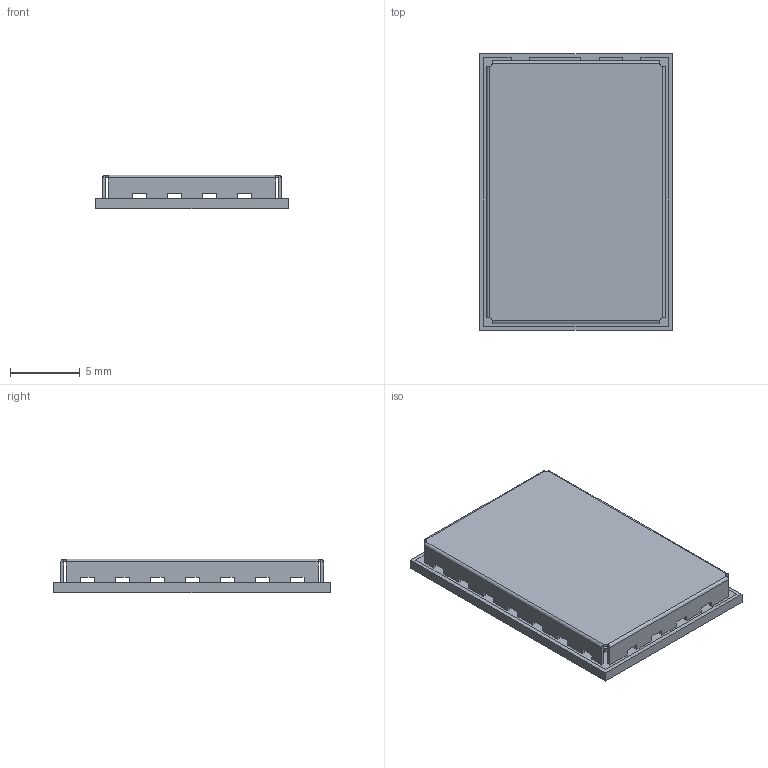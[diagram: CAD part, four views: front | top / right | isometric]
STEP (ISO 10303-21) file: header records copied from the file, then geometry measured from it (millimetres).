
FILE_DESCRIPTION (( 'STEP AP214' ), '1' );
FILE_NAME ('JODY.STEP', '2016-10-20T11:39:08', ( 'elias.kardel' ), ( '' ), 'SwSTEP 2.0', 'SolidWorks 2014', '' );
FILE_SCHEMA (( 'AUTOMOTIVE_DESIGN' ));
Length unit declared in the file: millimetre
Products named in the file (3): JODY_shield_Standard; JODY_pcb_mm_Standard; JODY
Assembly tree (2 placements, depth 2):
  JODY
    JODY_pcb_mm_Standard
    JODY_shield_Standard
Bounding box: 13.8 x 19.8 x 2.42 mm (x, y, z)
Volume: 63.6 mm3; surface area: 1618.1 mm2
Topology: 1 solids, 792 shells, 925 faces, 3807 edges, 3675 vertices
Faces by surface type: plane 917, cylinder 8
Entity records: 53009 total; most frequent: CARTESIAN_POINT 15575, DIRECTION 4768, ORIENTED_EDGE 4163, EDGE_CURVE 3807, VERTEX_POINT 3675, LINE 2874, VECTOR 2874, AXIS2_PLACEMENT_3D 947
